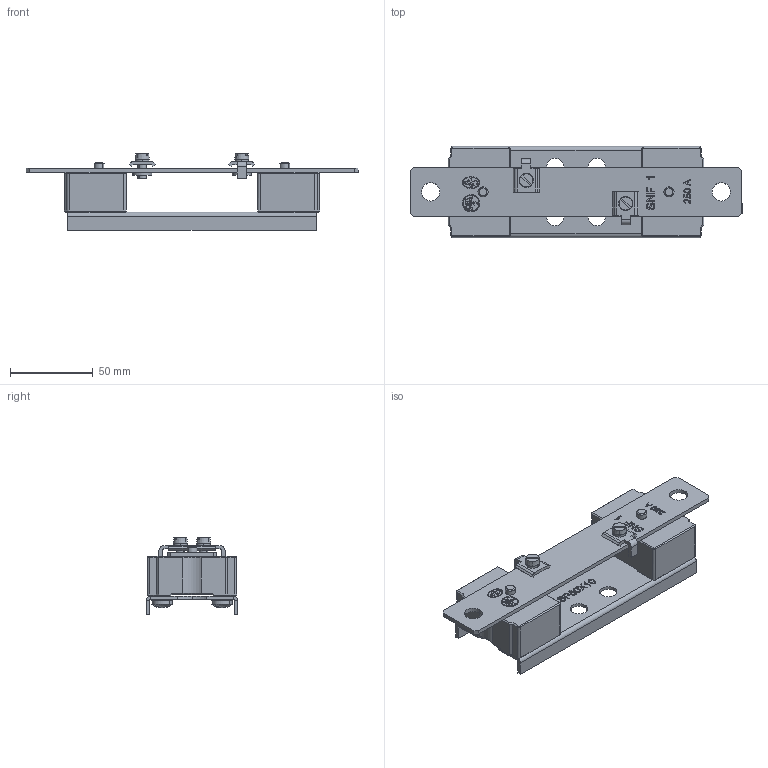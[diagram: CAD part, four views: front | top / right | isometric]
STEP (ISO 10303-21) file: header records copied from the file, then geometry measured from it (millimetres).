
FILE_DESCRIPTION (( 'STEP AP214' ), '1' );
FILE_NAME ('spodek_nulovaci_856005_-_0.STEP', '2022-03-30T08:28:12', ( '' ), ( '' ), 'SwSTEP 2.0', 'SolidWorks 2015', '' );
FILE_SCHEMA (( 'AUTOMOTIVE_DESIGN' ));
Length unit declared in the file: millimetre
Products named in the file (11): spodek_nulovaci_856005_-_0; stitek_191138_-_0_Z00; Sroub_ISO_1207_M5x12_3092310320_-_0; zakladna_668230_-_0_Z01; ZAKLADNA_523343_d_0_Z00; Sroub_ISO_7049_6_3x16_NA010160_-_0; Podlozka_CSN_021733_6_4_3112133083_-_0; na010199; svorka_570938_-_0_Z00-s; Podlozka_CSN_021740_5_3112140109_-_0; prilozka_SVP3_NA003832_-_0_Z00
Assembly tree (21 placements, depth 2):
  spodek_nulovaci_856005_-_0
    zakladna_668230_-_0_Z01
    ZAKLADNA_523343_d_0_Z00  x2
    svorka_570938_-_0_Z00-s
    stitek_191138_-_0_Z00
    na010199  x2
    Podlozka_CSN_021733_6_4_3112133083_-_0  x4
    Sroub_ISO_7049_6_3x16_NA010160_-_0  x4
    prilozka_SVP3_NA003832_-_0_Z00  x2
    Sroub_ISO_1207_M5x12_3092310320_-_0  x2
    Podlozka_CSN_021740_5_3112140109_-_0  x2
Bounding box: 200 x 55 x 46.3 mm (x, y, z)
Volume: 128199.9 mm3; surface area: 61088.5 mm2
Topology: 21 solids, 21 shells, 1130 faces, 2813 edges, 1810 vertices
Faces by surface type: plane 627, bspline 246, cylinder 161, cone 60, torus 28, sphere 8
Entity records: 43392 total; most frequent: CARTESIAN_POINT 19587, ORIENTED_EDGE 4356, DIRECTION 3176, EDGE_CURVE 2178, VERTEX_POINT 1423, VECTOR 1392, LINE 1392, EDGE_LOOP 975
